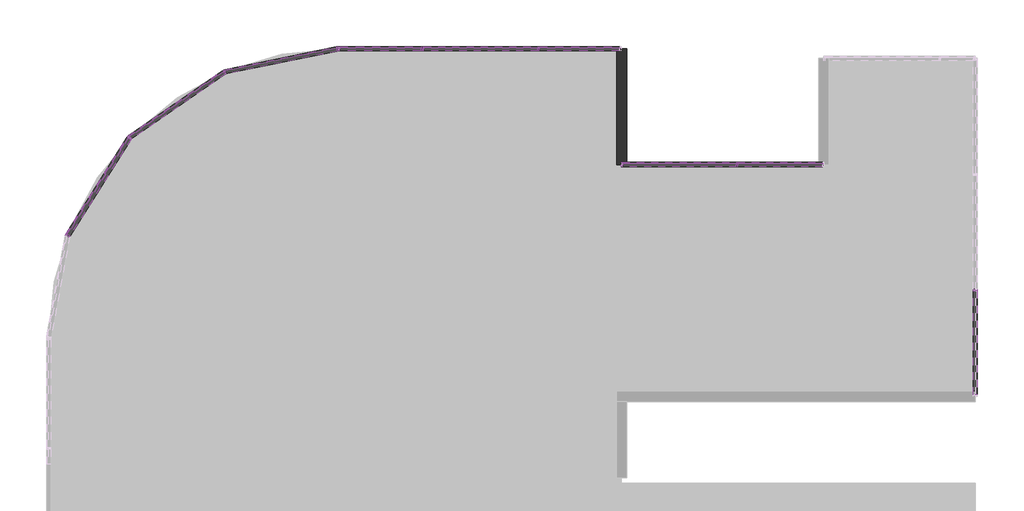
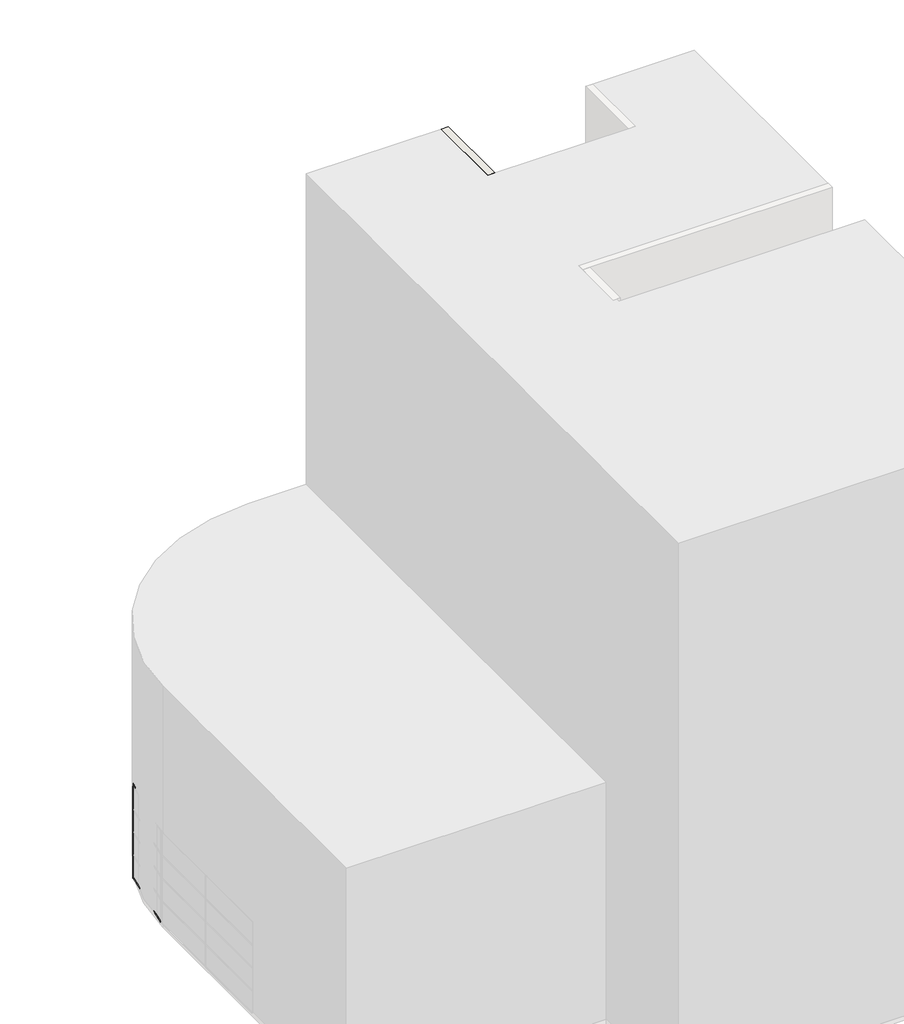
# One storey, part 3 of 5: 79 members, 32 plates, 1 wall.
"""IFC4 building model written with IfcOpenShell, lengths in millimetres."""

from ifc_helpers import new_model, si_unit, origin, origin_with_axes, place, context, project, spatial, polyline, outline, extrude, transform, mapped, element, save
from components import rectangular_mullion_50_x_150mm_d99dc9be, rectangular_mullion_50_x_150mm_182bfbd5, rectangular_mullion_50_x_150mm_402ab136, rectangular_mullion_50_x_150mm_6588f46c, rectangular_mullion_50_x_150mm_3fe1b35e, rectangular_mullion_50_x_150mm_c2546fd4, rectangular_mullion_50_x_150mm_8b4cb4b7, rectangular_mullion_50_x_150mm_185cfd49, rectangular_mullion_50_x_150mm_0b116d56, rectangular_mullion_50_x_150mm_6d604593, rectangular_mullion_50_x_150mm_99029072, rectangular_mullion_50_x_150mm_662445cf, rectangular_mullion_50_x_150mm_3491e2ff, rectangular_mullion_50_x_150mm_1010543a, rectangular_mullion_50_x_150mm_6b01f5a5, system_panel_glazed_ecbc047f, system_panel_glazed_8e9402eb, system_panel_glazed_6cd03a5f, system_panel_glazed_e890f31e, system_panel_glazed_29e23e46, system_panel_glazed_e3e91f99, system_panel_glazed_ee025bb3, system_panel_glazed_18d93cd4, system_panel_glazed_0282c8a9, system_panel_glazed_e778729e, system_panel_glazed_f47374c1, system_panel_glazed_c3dc520e

model = new_model("IFC4")

# Units and contexts
model_context = context("Model", 3, world=origin())
ifc_project = project(units=[si_unit("LENGTHUNIT", "METRE", prefix="MILLI")], contexts=[model_context])

# Site, building, storey
site = spatial("IfcSite", under=ifc_project)
building = spatial("IfcBuilding", under=site)
storey = spatial("IfcBuildingStorey", under=building, Name="Suteren", Elevation=0.0)

# Members
placement = place(None, origin())
rectangular_mullion_50_x_150mm_shape = rectangular_mullion_50_x_150mm_d99dc9be(model_context)
element("IfcMember", 1, ObjectType="Rectangular Mullion : 50 x 150mm", at=placement, inside=storey, context=model_context, shape_type="MappedRepresentation", body=[
    mapped(rectangular_mullion_50_x_150mm_shape, transform((13503.2660975, 39.3555415, 4800.0), x_axis=(0.0, -1.0, 0.0), y_axis=(1.0, 0.0, 0.0), z_axis=(0.0, 0.0, 1.0))),
])
element("IfcMember", 2, ObjectType="Rectangular Mullion : 50 x 150mm", at=placement, inside=storey, context=model_context, shape_type="MappedRepresentation", body=[
    mapped(rectangular_mullion_50_x_150mm_shape, transform((13503.2660975, 39.3555415, 3600.0), x_axis=(0.0, -1.0, 0.0), y_axis=(1.0, 0.0, 0.0), z_axis=(0.0, 0.0, 1.0))),
])
element("IfcMember", 3, ObjectType="Rectangular Mullion : 50 x 150mm", at=placement, inside=storey, context=model_context, shape_type="MappedRepresentation", body=[
    mapped(rectangular_mullion_50_x_150mm_shape, transform((13503.2660975, 39.3555415, 2400.0), x_axis=(0.0, -1.0, 0.0), y_axis=(1.0, 0.0, 0.0), z_axis=(0.0, 0.0, 1.0))),
])
element("IfcMember", 4, ObjectType="Rectangular Mullion : 50 x 150mm", at=placement, inside=storey, context=model_context, shape_type="MappedRepresentation", body=[
    mapped(rectangular_mullion_50_x_150mm_shape, transform((-1587.173406, 8375.9839566, 2400.0), x_axis=(1.0, 0.0, 0.0), y_axis=(0.0, 1.0, 0.0), z_axis=(0.0, 0.0, 1.0))),
])
element("IfcMember", 5, ObjectType="Rectangular Mullion : 50 x 150mm", at=placement, inside=storey, context=model_context, shape_type="MappedRepresentation", body=[
    mapped(rectangular_mullion_50_x_150mm_shape, transform((-1587.173406, 8375.9839566, 3600.0), x_axis=(1.0, 0.0, 0.0), y_axis=(0.0, 1.0, 0.0), z_axis=(0.0, 0.0, 1.0))),
])
element("IfcMember", 6, ObjectType="Rectangular Mullion : 50 x 150mm", at=placement, inside=storey, context=model_context, shape_type="MappedRepresentation", body=[
    mapped(rectangular_mullion_50_x_150mm_shape, transform((-1587.173406, 8375.9839566, 4800.0), x_axis=(1.0, 0.0, 0.0), y_axis=(0.0, 1.0, 0.0), z_axis=(0.0, 0.0, 1.0))),
])
element("IfcMember", 7, ObjectType="Rectangular Mullion : 50 x 150mm", at=placement, inside=storey, context=model_context, shape_type="MappedRepresentation", body=[
    mapped(rectangular_mullion_50_x_150mm_shape, transform((5278.419219, 4375.9839566, 2400.0), x_axis=(1.0, 0.0, 0.0), y_axis=(0.0, 1.0, 0.0), z_axis=(0.0, 0.0, 1.0))),
])
element("IfcMember", 8, ObjectType="Rectangular Mullion : 50 x 150mm", at=placement, inside=storey, context=model_context, shape_type="MappedRepresentation", body=[
    mapped(rectangular_mullion_50_x_150mm_shape, transform((5278.419219, 4375.9839566, 3600.0), x_axis=(1.0, 0.0, 0.0), y_axis=(0.0, 1.0, 0.0), z_axis=(0.0, 0.0, 1.0))),
])
element("IfcMember", 9, ObjectType="Rectangular Mullion : 50 x 150mm", at=placement, inside=storey, context=model_context, shape_type="MappedRepresentation", body=[
    mapped(rectangular_mullion_50_x_150mm_shape, transform((5278.419219, 4375.9839566, 4800.0), x_axis=(1.0, 0.0, 0.0), y_axis=(0.0, 1.0, 0.0), z_axis=(0.0, 0.0, 1.0))),
])
element("IfcMember", 10, ObjectType="Rectangular Mullion : 50 x 150mm", at=placement, inside=storey, context=model_context, shape_type="MappedRepresentation", body=[
    mapped(rectangular_mullion_50_x_150mm_shape, transform((13503.2660975, 39.3555415, 1200.0), x_axis=(0.0, -1.0, 0.0), y_axis=(1.0, 0.0, 0.0), z_axis=(0.0, 0.0, 1.0))),
])
element("IfcMember", 11, ObjectType="Rectangular Mullion : 50 x 150mm", at=placement, inside=storey, context=model_context, shape_type="MappedRepresentation", body=[
    mapped(rectangular_mullion_50_x_150mm_shape, transform((-1587.173406, 8375.9839566, 1200.0), x_axis=(1.0, 0.0, 0.0), y_axis=(0.0, 1.0, 0.0), z_axis=(0.0, 0.0, 1.0))),
])
element("IfcMember", 12, ObjectType="Rectangular Mullion : 50 x 150mm", at=placement, inside=storey, context=model_context, shape_type="MappedRepresentation", body=[
    mapped(rectangular_mullion_50_x_150mm_shape, transform((5278.419219, 4375.9839566, 1200.0), x_axis=(1.0, 0.0, 0.0), y_axis=(0.0, 1.0, 0.0), z_axis=(0.0, 0.0, 1.0))),
])
rectangular_mullion_50_x_150mm_2_shape = rectangular_mullion_50_x_150mm_182bfbd5(model_context)
element("IfcMember", 13, ObjectType="Rectangular Mullion : 50 x 150mm", at=placement, inside=storey, context=model_context, shape_type="MappedRepresentation", body=[
    mapped(rectangular_mullion_50_x_150mm_2_shape, transform((13503.2660975, 64.3555415, 0.0), x_axis=(0.0, 0.0, -1.0), y_axis=(1.0, 0.0, 0.0), z_axis=(0.0, -1.0, 0.0))),
])
rectangular_mullion_50_x_150mm_3_shape = rectangular_mullion_50_x_150mm_402ab136(model_context)
element("IfcMember", 14, ObjectType="Rectangular Mullion : 50 x 150mm", at=placement, inside=storey, context=model_context, shape_type="MappedRepresentation", body=[
    mapped(rectangular_mullion_50_x_150mm_3_shape, transform((-1612.173406, 8375.9839566, 0.0), x_axis=(0.0, 0.0, -1.0), y_axis=(0.0, 1.0, 0.0), z_axis=(1.0, 0.0, 0.0))),
])
element("IfcMember", 15, ObjectType="Rectangular Mullion : 50 x 150mm", at=placement, inside=storey, context=model_context, shape_type="MappedRepresentation", body=[
    mapped(rectangular_mullion_50_x_150mm_3_shape, transform((5253.419219, 4375.9839566, 0.0), x_axis=(0.0, 0.0, -1.0), y_axis=(0.0, 1.0, 0.0), z_axis=(1.0, 0.0, 0.0))),
])
rectangular_mullion_50_x_150mm_4_shape = rectangular_mullion_50_x_150mm_6588f46c(model_context)
element("IfcMember", 16, ObjectType="Rectangular Mullion : 50 x 150mm", at=placement, inside=storey, context=model_context, shape_type="MappedRepresentation", body=[
    mapped(rectangular_mullion_50_x_150mm_4_shape, transform((-5587.173406, 8375.9839566, 2400.0), x_axis=(1.0, 0.0, 0.0), y_axis=(0.0, 1.0, 0.0), z_axis=(0.0, 0.0, 1.0))),
])
element("IfcMember", 17, ObjectType="Rectangular Mullion : 50 x 150mm", at=placement, inside=storey, context=model_context, shape_type="MappedRepresentation", body=[
    mapped(rectangular_mullion_50_x_150mm_4_shape, transform((-5587.173406, 8375.9839566, 3600.0), x_axis=(1.0, 0.0, 0.0), y_axis=(0.0, 1.0, 0.0), z_axis=(0.0, 0.0, 1.0))),
])
element("IfcMember", 18, ObjectType="Rectangular Mullion : 50 x 150mm", at=placement, inside=storey, context=model_context, shape_type="MappedRepresentation", body=[
    mapped(rectangular_mullion_50_x_150mm_4_shape, transform((-5587.173406, 8375.9839566, 4800.0), x_axis=(1.0, 0.0, 0.0), y_axis=(0.0, 1.0, 0.0), z_axis=(0.0, 0.0, 1.0))),
])
element("IfcMember", 19, ObjectType="Rectangular Mullion : 50 x 150mm", at=placement, inside=storey, context=model_context, shape_type="MappedRepresentation", body=[
    mapped(rectangular_mullion_50_x_150mm_4_shape, transform((-8496.7339025, 8375.9839566, 2400.0), x_axis=(0.9797958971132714, 0.1999999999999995, 0.0), y_axis=(-0.1999999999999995, 0.9797958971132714, 0.0), z_axis=(0.0, 0.0, 1.0))),
])
element("IfcMember", 20, ObjectType="Rectangular Mullion : 50 x 150mm", at=placement, inside=storey, context=model_context, shape_type="MappedRepresentation", body=[
    mapped(rectangular_mullion_50_x_150mm_4_shape, transform((-8496.7339025, 8375.9839566, 3600.0), x_axis=(0.9797958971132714, 0.1999999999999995, 0.0), y_axis=(-0.1999999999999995, 0.9797958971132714, 0.0), z_axis=(0.0, 0.0, 1.0))),
])
element("IfcMember", 21, ObjectType="Rectangular Mullion : 50 x 150mm", at=placement, inside=storey, context=model_context, shape_type="MappedRepresentation", body=[
    mapped(rectangular_mullion_50_x_150mm_4_shape, transform((-8496.7339025, 8375.9839566, 4800.0), x_axis=(0.9797958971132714, 0.1999999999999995, 0.0), y_axis=(-0.1999999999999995, 0.9797958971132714, 0.0), z_axis=(0.0, 0.0, 1.0))),
])
element("IfcMember", 22, ObjectType="Rectangular Mullion : 50 x 150mm", at=placement, inside=storey, context=model_context, shape_type="MappedRepresentation", body=[
    mapped(rectangular_mullion_50_x_150mm_4_shape, transform((-5587.173406, 8375.9839566, 1200.0), x_axis=(1.0, 0.0, 0.0), y_axis=(0.0, 1.0, 0.0), z_axis=(0.0, 0.0, 1.0))),
])
element("IfcMember", 23, ObjectType="Rectangular Mullion : 50 x 150mm", at=placement, inside=storey, context=model_context, shape_type="MappedRepresentation", body=[
    mapped(rectangular_mullion_50_x_150mm_4_shape, transform((-8496.7339025, 8375.9839566, 1200.0), x_axis=(0.9797958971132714, 0.1999999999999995, 0.0), y_axis=(-0.1999999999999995, 0.9797958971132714, 0.0), z_axis=(0.0, 0.0, 1.0))),
])
rectangular_mullion_50_x_150mm_5_shape = rectangular_mullion_50_x_150mm_3fe1b35e(model_context)
element("IfcMember", 24, ObjectType="Rectangular Mullion : 50 x 150mm", at=placement, inside=storey, context=model_context, shape_type="MappedRepresentation", body=[
    mapped(rectangular_mullion_50_x_150mm_5_shape, transform((13503.2660975, 14.3555415, 3600.0), x_axis=(0.0, 0.0, 1.0), y_axis=(1.0, 0.0, 0.0), z_axis=(0.0, 1.0, 0.0))),
])
element("IfcMember", 25, ObjectType="Rectangular Mullion : 50 x 150mm", at=placement, inside=storey, context=model_context, shape_type="MappedRepresentation", body=[
    mapped(rectangular_mullion_50_x_150mm_5_shape, transform((13503.2660975, 14.3555415, 2400.0), x_axis=(0.0, 0.0, 1.0), y_axis=(1.0, 0.0, 0.0), z_axis=(0.0, 1.0, 0.0))),
])
element("IfcMember", 26, ObjectType="Rectangular Mullion : 50 x 150mm", at=placement, inside=storey, context=model_context, shape_type="MappedRepresentation", body=[
    mapped(rectangular_mullion_50_x_150mm_5_shape, transform((13503.2660975, 14.3555415, 1200.0), x_axis=(0.0, 0.0, 1.0), y_axis=(1.0, 0.0, 0.0), z_axis=(0.0, 1.0, 0.0))),
])
rectangular_mullion_50_x_150mm_6_shape = rectangular_mullion_50_x_150mm_c2546fd4(model_context)
element("IfcMember", 27, ObjectType="Rectangular Mullion : 50 x 150mm", at=placement, inside=storey, context=model_context, shape_type="MappedRepresentation", body=[
    mapped(rectangular_mullion_50_x_150mm_6_shape, transform((-5537.173406, 8375.9839566, 1200.0), x_axis=(0.0, 0.0, 1.0), y_axis=(0.0, 1.0, 0.0), z_axis=(-1.0, 0.0, 0.0))),
])
element("IfcMember", 28, ObjectType="Rectangular Mullion : 50 x 150mm", at=placement, inside=storey, context=model_context, shape_type="MappedRepresentation", body=[
    mapped(rectangular_mullion_50_x_150mm_6_shape, transform((-5537.173406, 8375.9839566, 2400.0), x_axis=(0.0, 0.0, 1.0), y_axis=(0.0, 1.0, 0.0), z_axis=(-1.0, 0.0, 0.0))),
])
element("IfcMember", 29, ObjectType="Rectangular Mullion : 50 x 150mm", at=placement, inside=storey, context=model_context, shape_type="MappedRepresentation", body=[
    mapped(rectangular_mullion_50_x_150mm_6_shape, transform((-5537.173406, 8375.9839566, 3600.0), x_axis=(0.0, 0.0, 1.0), y_axis=(0.0, 1.0, 0.0), z_axis=(-1.0, 0.0, 0.0))),
])
element("IfcMember", 30, ObjectType="Rectangular Mullion : 50 x 150mm", at=placement, inside=storey, context=model_context, shape_type="MappedRepresentation", body=[
    mapped(rectangular_mullion_50_x_150mm_6_shape, transform((1328.419219, 4375.9839566, 1200.0), x_axis=(0.0, 0.0, 1.0), y_axis=(0.0, 1.0, 0.0), z_axis=(-1.0, 0.0, 0.0))),
])
element("IfcMember", 31, ObjectType="Rectangular Mullion : 50 x 150mm", at=placement, inside=storey, context=model_context, shape_type="MappedRepresentation", body=[
    mapped(rectangular_mullion_50_x_150mm_6_shape, transform((1328.419219, 4375.9839566, 2400.0), x_axis=(0.0, 0.0, 1.0), y_axis=(0.0, 1.0, 0.0), z_axis=(-1.0, 0.0, 0.0))),
])
element("IfcMember", 32, ObjectType="Rectangular Mullion : 50 x 150mm", at=placement, inside=storey, context=model_context, shape_type="MappedRepresentation", body=[
    mapped(rectangular_mullion_50_x_150mm_6_shape, transform((1328.419219, 4375.9839566, 3600.0), x_axis=(0.0, 0.0, 1.0), y_axis=(0.0, 1.0, 0.0), z_axis=(-1.0, 0.0, 0.0))),
])
element("IfcMember", 33, ObjectType="Rectangular Mullion : 50 x 150mm", at=placement, inside=storey, context=model_context, shape_type="MappedRepresentation", body=[
    mapped(rectangular_mullion_50_x_150mm_4_shape, transform((-5587.173406, 8375.9839566, 1200.0), x_axis=(-1.0, 0.0, 0.0), y_axis=(0.0, 1.0, 0.0), z_axis=(0.0, 0.0, -1.0))),
])
element("IfcMember", 34, ObjectType="Rectangular Mullion : 50 x 150mm", at=placement, inside=storey, context=model_context, shape_type="MappedRepresentation", body=[
    mapped(rectangular_mullion_50_x_150mm_4_shape, transform((-5587.173406, 8375.9839566, 2400.0), x_axis=(-1.0, 0.0, 0.0), y_axis=(0.0, 1.0, 0.0), z_axis=(0.0, 0.0, -1.0))),
])
element("IfcMember", 35, ObjectType="Rectangular Mullion : 50 x 150mm", at=placement, inside=storey, context=model_context, shape_type="MappedRepresentation", body=[
    mapped(rectangular_mullion_50_x_150mm_4_shape, transform((-5587.173406, 8375.9839566, 3600.0), x_axis=(-1.0, 0.0, 0.0), y_axis=(0.0, 1.0, 0.0), z_axis=(0.0, 0.0, -1.0))),
])
element("IfcMember", 36, ObjectType="Rectangular Mullion : 50 x 150mm", at=placement, inside=storey, context=model_context, shape_type="MappedRepresentation", body=[
    mapped(rectangular_mullion_50_x_150mm_4_shape, transform((1278.419219, 4375.9839566, 1200.0), x_axis=(-1.0, 0.0, 0.0), y_axis=(0.0, 1.0, 0.0), z_axis=(0.0, 0.0, -1.0))),
])
element("IfcMember", 37, ObjectType="Rectangular Mullion : 50 x 150mm", at=placement, inside=storey, context=model_context, shape_type="MappedRepresentation", body=[
    mapped(rectangular_mullion_50_x_150mm_4_shape, transform((1278.419219, 4375.9839566, 2400.0), x_axis=(-1.0, 0.0, 0.0), y_axis=(0.0, 1.0, 0.0), z_axis=(0.0, 0.0, -1.0))),
])
element("IfcMember", 38, ObjectType="Rectangular Mullion : 50 x 150mm", at=placement, inside=storey, context=model_context, shape_type="MappedRepresentation", body=[
    mapped(rectangular_mullion_50_x_150mm_4_shape, transform((1278.419219, 4375.9839566, 3600.0), x_axis=(-1.0, 0.0, 0.0), y_axis=(0.0, 1.0, 0.0), z_axis=(0.0, 0.0, -1.0))),
])
element("IfcMember", 39, ObjectType="Rectangular Mullion : 50 x 150mm", at=placement, inside=storey, context=model_context, shape_type="MappedRepresentation", body=[
    mapped(rectangular_mullion_50_x_150mm_4_shape, transform((-8496.7339025, 8375.9839566, 1200.0), x_axis=(-1.0, 0.0, 0.0), y_axis=(0.0, 1.0, 0.0), z_axis=(0.0, 0.0, -1.0))),
])
element("IfcMember", 40, ObjectType="Rectangular Mullion : 50 x 150mm", at=placement, inside=storey, context=model_context, shape_type="MappedRepresentation", body=[
    mapped(rectangular_mullion_50_x_150mm_4_shape, transform((-8496.7339025, 8375.9839566, 2400.0), x_axis=(-1.0, 0.0, 0.0), y_axis=(0.0, 1.0, 0.0), z_axis=(0.0, 0.0, -1.0))),
])
element("IfcMember", 41, ObjectType="Rectangular Mullion : 50 x 150mm", at=placement, inside=storey, context=model_context, shape_type="MappedRepresentation", body=[
    mapped(rectangular_mullion_50_x_150mm_4_shape, transform((-8496.7339025, 8375.9839566, 3600.0), x_axis=(-1.0, 0.0, 0.0), y_axis=(0.0, 1.0, 0.0), z_axis=(0.0, 0.0, -1.0))),
])
element("IfcMember", 42, ObjectType="Rectangular Mullion : 50 x 150mm", at=placement, inside=storey, context=model_context, shape_type="MappedRepresentation", body=[
    mapped(rectangular_mullion_50_x_150mm_4_shape, transform((-5587.173406, 8375.9839566, 0.0), x_axis=(-1.0, 0.0, 0.0), y_axis=(0.0, 1.0, 0.0), z_axis=(0.0, 0.0, -1.0))),
])
element("IfcMember", 43, ObjectType="Rectangular Mullion : 50 x 150mm", at=placement, inside=storey, context=model_context, shape_type="MappedRepresentation", body=[
    mapped(rectangular_mullion_50_x_150mm_4_shape, transform((1278.419219, 4375.9839566, 0.0), x_axis=(-1.0, 0.0, 0.0), y_axis=(0.0, 1.0, 0.0), z_axis=(0.0, 0.0, -1.0))),
])
element("IfcMember", 44, ObjectType="Rectangular Mullion : 50 x 150mm", at=placement, inside=storey, context=model_context, shape_type="MappedRepresentation", body=[
    mapped(rectangular_mullion_50_x_150mm_4_shape, transform((-8496.7339025, 8375.9839566, 0.0), x_axis=(-1.0, 0.0, 0.0), y_axis=(0.0, 1.0, 0.0), z_axis=(0.0, 0.0, -1.0))),
])
rectangular_mullion_50_x_150mm_7_shape = rectangular_mullion_50_x_150mm_8b4cb4b7(model_context)
element("IfcMember", 45, ObjectType="Rectangular Mullion : 50 x 150mm", at=placement, inside=storey, context=model_context, shape_type="MappedRepresentation", body=[
    mapped(rectangular_mullion_50_x_150mm_7_shape, transform((-1562.173406, 8375.9839566, 1200.0), x_axis=(0.0, 0.0, 1.0), y_axis=(0.0, 1.0, 0.0), z_axis=(-1.0, 0.0, 0.0))),
])
element("IfcMember", 46, ObjectType="Rectangular Mullion : 50 x 150mm", at=placement, inside=storey, context=model_context, shape_type="MappedRepresentation", body=[
    mapped(rectangular_mullion_50_x_150mm_7_shape, transform((-1562.173406, 8375.9839566, 2400.0), x_axis=(0.0, 0.0, 1.0), y_axis=(0.0, 1.0, 0.0), z_axis=(-1.0, 0.0, 0.0))),
])
element("IfcMember", 47, ObjectType="Rectangular Mullion : 50 x 150mm", at=placement, inside=storey, context=model_context, shape_type="MappedRepresentation", body=[
    mapped(rectangular_mullion_50_x_150mm_7_shape, transform((-1562.173406, 8375.9839566, 3600.0), x_axis=(0.0, 0.0, 1.0), y_axis=(0.0, 1.0, 0.0), z_axis=(-1.0, 0.0, 0.0))),
])
rectangular_mullion_50_x_150mm_8_shape = rectangular_mullion_50_x_150mm_185cfd49(model_context)
element("IfcMember", 48, ObjectType="Rectangular Mullion : 50 x 150mm", at=placement, inside=storey, context=model_context, shape_type="MappedRepresentation", body=[
    mapped(rectangular_mullion_50_x_150mm_8_shape, transform((5303.419219, 4375.9839566, 1200.0), x_axis=(0.0, 0.0, 1.0), y_axis=(0.0, 1.0, 0.0), z_axis=(-1.0, 0.0, 0.0))),
])
element("IfcMember", 49, ObjectType="Rectangular Mullion : 50 x 150mm", at=placement, inside=storey, context=model_context, shape_type="MappedRepresentation", body=[
    mapped(rectangular_mullion_50_x_150mm_8_shape, transform((5303.419219, 4375.9839566, 2400.0), x_axis=(0.0, 0.0, 1.0), y_axis=(0.0, 1.0, 0.0), z_axis=(-1.0, 0.0, 0.0))),
])
element("IfcMember", 50, ObjectType="Rectangular Mullion : 50 x 150mm", at=placement, inside=storey, context=model_context, shape_type="MappedRepresentation", body=[
    mapped(rectangular_mullion_50_x_150mm_8_shape, transform((5303.419219, 4375.9839566, 3600.0), x_axis=(0.0, 0.0, 1.0), y_axis=(0.0, 1.0, 0.0), z_axis=(-1.0, 0.0, 0.0))),
])
rectangular_mullion_50_x_150mm_9_shape = rectangular_mullion_50_x_150mm_0b116d56(model_context)
element("IfcMember", 51, ObjectType="Rectangular Mullion : 50 x 150mm", at=placement, inside=storey, context=model_context, shape_type="MappedRepresentation", body=[
    mapped(rectangular_mullion_50_x_150mm_9_shape, transform((-5637.173406, 8375.9839566, 0.0), x_axis=(0.0, 0.0, -1.0), y_axis=(0.0, 1.0, 0.0), z_axis=(1.0, 0.0, 0.0))),
])
rectangular_mullion_50_x_150mm_10_shape = rectangular_mullion_50_x_150mm_6d604593(model_context)
element("IfcMember", 52, ObjectType="Rectangular Mullion : 50 x 150mm", at=placement, inside=storey, context=model_context, shape_type="MappedRepresentation", body=[
    mapped(rectangular_mullion_50_x_150mm_10_shape, transform((-8446.7339025, 8375.9839566, 1200.0), x_axis=(0.0, 0.0, 1.0), y_axis=(0.0, 1.0, 0.0), z_axis=(-1.0, 0.0, 0.0))),
])
element("IfcMember", 53, ObjectType="Rectangular Mullion : 50 x 150mm", at=placement, inside=storey, context=model_context, shape_type="MappedRepresentation", body=[
    mapped(rectangular_mullion_50_x_150mm_10_shape, transform((-8446.7339025, 8375.9839566, 2400.0), x_axis=(0.0, 0.0, 1.0), y_axis=(0.0, 1.0, 0.0), z_axis=(-1.0, 0.0, 0.0))),
])
element("IfcMember", 54, ObjectType="Rectangular Mullion : 50 x 150mm", at=placement, inside=storey, context=model_context, shape_type="MappedRepresentation", body=[
    mapped(rectangular_mullion_50_x_150mm_10_shape, transform((-8446.7339025, 8375.9839566, 3600.0), x_axis=(0.0, 0.0, 1.0), y_axis=(0.0, 1.0, 0.0), z_axis=(-1.0, 0.0, 0.0))),
])
rectangular_mullion_50_x_150mm_11_shape = rectangular_mullion_50_x_150mm_99029072(model_context)
element("IfcMember", 55, ObjectType="Rectangular Mullion : 50 x 150mm", at=placement, inside=storey, context=model_context, shape_type="MappedRepresentation", body=[
    mapped(rectangular_mullion_50_x_150mm_11_shape, transform((-15687.4559914, 5318.1839566, 1200.0), x_axis=(0.0, 0.0, 1.0), y_axis=(-0.5680000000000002, 0.8230285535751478, 0.0), z_axis=(-0.8230285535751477, -0.5680000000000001, 0.0))),
])
element("IfcMember", 56, ObjectType="Rectangular Mullion : 50 x 150mm", at=placement, inside=storey, context=model_context, shape_type="MappedRepresentation", body=[
    mapped(rectangular_mullion_50_x_150mm_11_shape, transform((-17832.9738551, 1944.6319566, 1200.0), x_axis=(0.0, 0.0, 1.0), y_axis=(-0.84512, 0.534576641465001, 0.0), z_axis=(-0.534576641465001, -0.84512, 0.0))),
])
element("IfcMember", 57, ObjectType="Rectangular Mullion : 50 x 150mm", at=placement, inside=storey, context=model_context, shape_type="MappedRepresentation", body=[
    mapped(rectangular_mullion_50_x_150mm_11_shape, transform((-15687.4559914, 5318.1839566, 2400.0), x_axis=(0.0, 0.0, 1.0), y_axis=(-0.5680000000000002, 0.8230285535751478, 0.0), z_axis=(-0.8230285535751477, -0.5680000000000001, 0.0))),
])
element("IfcMember", 58, ObjectType="Rectangular Mullion : 50 x 150mm", at=placement, inside=storey, context=model_context, shape_type="MappedRepresentation", body=[
    mapped(rectangular_mullion_50_x_150mm_11_shape, transform((-17832.9738551, 1944.6319566, 2400.0), x_axis=(0.0, 0.0, 1.0), y_axis=(-0.84512, 0.534576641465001, 0.0), z_axis=(-0.534576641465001, -0.84512, 0.0))),
])
element("IfcMember", 59, ObjectType="Rectangular Mullion : 50 x 150mm", at=placement, inside=storey, context=model_context, shape_type="MappedRepresentation", body=[
    mapped(rectangular_mullion_50_x_150mm_11_shape, transform((-15687.4559914, 5318.1839566, 3600.0), x_axis=(0.0, 0.0, 1.0), y_axis=(-0.5680000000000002, 0.8230285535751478, 0.0), z_axis=(-0.8230285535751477, -0.5680000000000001, 0.0))),
])
element("IfcMember", 60, ObjectType="Rectangular Mullion : 50 x 150mm", at=placement, inside=storey, context=model_context, shape_type="MappedRepresentation", body=[
    mapped(rectangular_mullion_50_x_150mm_11_shape, transform((-17832.9738551, 1944.6319566, 3600.0), x_axis=(0.0, 0.0, 1.0), y_axis=(-0.84512, 0.534576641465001, 0.0), z_axis=(-0.534576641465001, -0.84512, 0.0))),
])
rectangular_mullion_50_x_150mm_12_shape = rectangular_mullion_50_x_150mm_662445cf(model_context)
element("IfcMember", 61, ObjectType="Rectangular Mullion : 50 x 150mm", at=placement, inside=storey, context=model_context, shape_type="MappedRepresentation", body=[
    mapped(rectangular_mullion_50_x_150mm_12_shape, transform((-12391.4225935, 7580.9839566, 2400.0), x_axis=(0.0, 0.0, 1.0), y_axis=(-0.19999999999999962, 0.9797958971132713, 0.0), z_axis=(-0.9797958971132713, -0.19999999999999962, 0.0))),
])
element("IfcMember", 62, ObjectType="Rectangular Mullion : 50 x 150mm", at=placement, inside=storey, context=model_context, shape_type="MappedRepresentation", body=[
    mapped(rectangular_mullion_50_x_150mm_12_shape, transform((-12391.4225935, 7580.9839566, 3600.0), x_axis=(0.0, 0.0, 1.0), y_axis=(-0.19999999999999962, 0.9797958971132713, 0.0), z_axis=(-0.9797958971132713, -0.19999999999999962, 0.0))),
])
element("IfcMember", 63, ObjectType="Rectangular Mullion : 50 x 150mm", at=placement, inside=storey, context=model_context, shape_type="MappedRepresentation", body=[
    mapped(rectangular_mullion_50_x_150mm_12_shape, transform((-12391.4225935, 7580.9839566, 1200.0), x_axis=(0.0, 0.0, 1.0), y_axis=(-0.19999999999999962, 0.9797958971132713, 0.0), z_axis=(-0.9797958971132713, -0.19999999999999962, 0.0))),
])
rectangular_mullion_50_x_150mm_13_shape = rectangular_mullion_50_x_150mm_3491e2ff(model_context)
element("IfcMember", 64, ObjectType="Rectangular Mullion : 50 x 150mm", at=placement, inside=storey, context=model_context, shape_type="MappedRepresentation", body=[
    mapped(rectangular_mullion_50_x_150mm_13_shape, transform((-12436.4932048, 7561.7839566, 0.0), x_axis=(0.0, 0.0, -1.0), y_axis=(-0.5680000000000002, 0.8230285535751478, 0.0), z_axis=(0.8230285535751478, 0.5680000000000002, 0.0))),
])
element("IfcMember", 65, ObjectType="Rectangular Mullion : 50 x 150mm", at=placement, inside=storey, context=model_context, shape_type="MappedRepresentation", body=[
    mapped(rectangular_mullion_50_x_150mm_13_shape, transform((-15721.3961213, 5282.8559566, 0.0), x_axis=(0.0, 0.0, -1.0), y_axis=(-0.8451199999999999, 0.5345766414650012, 0.0), z_axis=(0.5345766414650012, 0.8451199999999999, 0.0))),
])
rectangular_mullion_50_x_150mm_14_shape = rectangular_mullion_50_x_150mm_1010543a(model_context)
element("IfcMember", 66, ObjectType="Rectangular Mullion : 50 x 150mm", at=placement, inside=storey, context=model_context, shape_type="MappedRepresentation", body=[
    mapped(rectangular_mullion_50_x_150mm_14_shape, transform((-17850.8465816, 1898.9138135, 0.0), x_axis=(0.0, 0.0, -1.0), y_axis=(-0.9836057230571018, 0.18033241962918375, 0.0), z_axis=(0.18033241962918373, 0.9836057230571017, 0.0))),
])
element("IfcMember", 67, ObjectType="Rectangular Mullion : 50 x 150mm", at=placement, inside=storey, context=model_context, shape_type="MappedRepresentation", body=[
    mapped(rectangular_mullion_50_x_150mm_shape, transform((-12415.9174909, 7575.9839566, 1200.0), x_axis=(-0.92, -0.3919183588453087, 0.0), y_axis=(-0.3919183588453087, 0.92, 0.0), z_axis=(0.0, 0.0, -1.0))),
])
element("IfcMember", 68, ObjectType="Rectangular Mullion : 50 x 150mm", at=placement, inside=storey, context=model_context, shape_type="MappedRepresentation", body=[
    mapped(rectangular_mullion_50_x_150mm_shape, transform((-12415.9174909, 7575.9839566, 2400.0), x_axis=(-0.92, -0.3919183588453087, 0.0), y_axis=(-0.3919183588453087, 0.92, 0.0), z_axis=(0.0, 0.0, -1.0))),
])
element("IfcMember", 69, ObjectType="Rectangular Mullion : 50 x 150mm", at=placement, inside=storey, context=model_context, shape_type="MappedRepresentation", body=[
    mapped(rectangular_mullion_50_x_150mm_shape, transform((-12415.9174909, 7575.9839566, 3600.0), x_axis=(-0.92, -0.3919183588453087, 0.0), y_axis=(-0.3919183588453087, 0.92, 0.0), z_axis=(0.0, 0.0, -1.0))),
])
element("IfcMember", 70, ObjectType="Rectangular Mullion : 50 x 150mm", at=placement, inside=storey, context=model_context, shape_type="MappedRepresentation", body=[
    mapped(rectangular_mullion_50_x_150mm_shape, transform((-15708.0317052, 5303.9839566, 1200.0), x_axis=(-0.6928000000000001, -0.7211297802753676, 0.0), y_axis=(-0.7211297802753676, 0.6928000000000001, 0.0), z_axis=(0.0, 0.0, -1.0))),
])
element("IfcMember", 71, ObjectType="Rectangular Mullion : 50 x 150mm", at=placement, inside=storey, context=model_context, shape_type="MappedRepresentation", body=[
    mapped(rectangular_mullion_50_x_150mm_shape, transform((-15708.0317052, 5303.9839566, 2400.0), x_axis=(-0.6928000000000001, -0.7211297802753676, 0.0), y_axis=(-0.7211297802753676, 0.6928000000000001, 0.0), z_axis=(0.0, 0.0, -1.0))),
])
element("IfcMember", 72, ObjectType="Rectangular Mullion : 50 x 150mm", at=placement, inside=storey, context=model_context, shape_type="MappedRepresentation", body=[
    mapped(rectangular_mullion_50_x_150mm_shape, transform((-15708.0317052, 5303.9839566, 3600.0), x_axis=(-0.6928000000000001, -0.7211297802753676, 0.0), y_axis=(-0.7211297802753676, 0.6928000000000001, 0.0), z_axis=(0.0, 0.0, -1.0))),
])
element("IfcMember", 73, ObjectType="Rectangular Mullion : 50 x 150mm", at=placement, inside=storey, context=model_context, shape_type="MappedRepresentation", body=[
    mapped(rectangular_mullion_50_x_150mm_shape, transform((-17846.3382711, 1923.5039566, 1200.0), x_axis=(-0.35475199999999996, -0.934960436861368, 0.0), y_axis=(-0.934960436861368, 0.35475199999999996, 0.0), z_axis=(0.0, 0.0, -1.0))),
])
element("IfcMember", 74, ObjectType="Rectangular Mullion : 50 x 150mm", at=placement, inside=storey, context=model_context, shape_type="MappedRepresentation", body=[
    mapped(rectangular_mullion_50_x_150mm_shape, transform((-17846.3382711, 1923.5039566, 2400.0), x_axis=(-0.35475199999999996, -0.934960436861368, 0.0), y_axis=(-0.934960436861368, 0.35475199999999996, 0.0), z_axis=(0.0, 0.0, -1.0))),
])
element("IfcMember", 75, ObjectType="Rectangular Mullion : 50 x 150mm", at=placement, inside=storey, context=model_context, shape_type="MappedRepresentation", body=[
    mapped(rectangular_mullion_50_x_150mm_shape, transform((-17846.3382711, 1923.5039566, 3600.0), x_axis=(-0.35475199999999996, -0.934960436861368, 0.0), y_axis=(-0.934960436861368, 0.35475199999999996, 0.0), z_axis=(0.0, 0.0, -1.0))),
])
rectangular_mullion_50_x_150mm_15_shape = rectangular_mullion_50_x_150mm_6b01f5a5(model_context)
element("IfcMember", 76, ObjectType="Rectangular Mullion : 50 x 150mm", at=placement, inside=storey, context=model_context, shape_type="MappedRepresentation", body=[
    mapped(rectangular_mullion_50_x_150mm_15_shape, transform((-8545.7236973, 8365.9839566, 0.0), x_axis=(0.0, 0.0, -1.0), y_axis=(-0.19999999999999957, 0.9797958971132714, 0.0), z_axis=(0.9797958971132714, 0.19999999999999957, 0.0))),
])
element("IfcMember", 77, ObjectType="Rectangular Mullion : 50 x 150mm", at=placement, inside=storey, context=model_context, shape_type="MappedRepresentation", body=[
    mapped(rectangular_mullion_50_x_150mm_shape, transform((-12415.9174909, 7575.9839566, 0.0), x_axis=(-0.92, -0.3919183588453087, 0.0), y_axis=(-0.3919183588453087, 0.92, 0.0), z_axis=(0.0, 0.0, -1.0))),
])
element("IfcMember", 78, ObjectType="Rectangular Mullion : 50 x 150mm", at=placement, inside=storey, context=model_context, shape_type="MappedRepresentation", body=[
    mapped(rectangular_mullion_50_x_150mm_shape, transform((-15708.0317052, 5303.9839566, 0.0), x_axis=(-0.6928000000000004, -0.7211297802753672, 0.0), y_axis=(-0.7211297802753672, 0.6928000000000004, 0.0), z_axis=(0.0, 0.0, -1.0))),
])
element("IfcMember", 79, ObjectType="Rectangular Mullion : 50 x 150mm", at=placement, inside=storey, context=model_context, shape_type="MappedRepresentation", body=[
    mapped(rectangular_mullion_50_x_150mm_shape, transform((-17846.3382711, 1923.5039566, 0.0), x_axis=(-0.35475199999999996, -0.934960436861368, 0.0), y_axis=(-0.934960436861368, 0.35475199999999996, 0.0), z_axis=(0.0, 0.0, -1.0))),
])

# Plates
system_panel_glazed_shape = system_panel_glazed_ecbc047f(model_context)
element("IfcPlate", 80, ObjectType="System Panel : Glazed", at=placement, inside=storey, context=model_context, shape_type="MappedRepresentation", body=[
    mapped(system_panel_glazed_shape, transform((3290.919219, 4375.9839566, 50.0), x_axis=(1.0, 0.0, 0.0), y_axis=(0.0, 1.0, 0.0), z_axis=(0.0, 0.0, 1.0))),
])
element("IfcPlate", 81, ObjectType="System Panel : Glazed", at=placement, inside=storey, context=model_context, shape_type="MappedRepresentation", body=[
    mapped(system_panel_glazed_shape, transform((-3574.673406, 8375.9839566, 50.0), x_axis=(1.0, 0.0, 0.0), y_axis=(0.0, 1.0, 0.0), z_axis=(0.0, 0.0, 1.0))),
])
system_panel_glazed_2_shape = system_panel_glazed_8e9402eb(model_context)
element("IfcPlate", 82, ObjectType="System Panel : Glazed", at=placement, inside=storey, context=model_context, shape_type="MappedRepresentation", body=[
    mapped(system_panel_glazed_2_shape, transform((3290.919219, 4375.9839566, 1225.0), x_axis=(1.0, 0.0, 0.0), y_axis=(0.0, 1.0, 0.0), z_axis=(0.0, 0.0, 1.0))),
])
element("IfcPlate", 83, ObjectType="System Panel : Glazed", at=placement, inside=storey, context=model_context, shape_type="MappedRepresentation", body=[
    mapped(system_panel_glazed_2_shape, transform((3290.919219, 4375.9839566, 2425.0), x_axis=(1.0, 0.0, 0.0), y_axis=(0.0, 1.0, 0.0), z_axis=(0.0, 0.0, 1.0))),
])
element("IfcPlate", 84, ObjectType="System Panel : Glazed", at=placement, inside=storey, context=model_context, shape_type="MappedRepresentation", body=[
    mapped(system_panel_glazed_2_shape, transform((3290.919219, 4375.9839566, 3625.0), x_axis=(1.0, 0.0, 0.0), y_axis=(0.0, 1.0, 0.0), z_axis=(0.0, 0.0, 1.0))),
])
element("IfcPlate", 85, ObjectType="System Panel : Glazed", at=placement, inside=storey, context=model_context, shape_type="MappedRepresentation", body=[
    mapped(system_panel_glazed_2_shape, transform((-3574.673406, 8375.9839566, 1225.0), x_axis=(1.0, 0.0, 0.0), y_axis=(0.0, 1.0, 0.0), z_axis=(0.0, 0.0, 1.0))),
])
element("IfcPlate", 86, ObjectType="System Panel : Glazed", at=placement, inside=storey, context=model_context, shape_type="MappedRepresentation", body=[
    mapped(system_panel_glazed_2_shape, transform((-3574.673406, 8375.9839566, 2425.0), x_axis=(1.0, 0.0, 0.0), y_axis=(0.0, 1.0, 0.0), z_axis=(0.0, 0.0, 1.0))),
])
element("IfcPlate", 87, ObjectType="System Panel : Glazed", at=placement, inside=storey, context=model_context, shape_type="MappedRepresentation", body=[
    mapped(system_panel_glazed_2_shape, transform((-3574.673406, 8375.9839566, 3625.0), x_axis=(1.0, 0.0, 0.0), y_axis=(0.0, 1.0, 0.0), z_axis=(0.0, 0.0, 1.0))),
])
system_panel_glazed_3_shape = system_panel_glazed_6cd03a5f(model_context)
element("IfcPlate", 88, ObjectType="System Panel : Glazed", at=placement, inside=storey, context=model_context, shape_type="MappedRepresentation", body=[
    mapped(system_panel_glazed_3_shape, transform((-166.8770935, 8375.9839566, 50.0), x_axis=(1.0, 0.0, 0.0), y_axis=(0.0, 1.0, 0.0), z_axis=(0.0, 0.0, 1.0))),
])
system_panel_glazed_4_shape = system_panel_glazed_e890f31e(model_context)
element("IfcPlate", 89, ObjectType="System Panel : Glazed", at=placement, inside=storey, context=model_context, shape_type="MappedRepresentation", body=[
    mapped(system_panel_glazed_4_shape, transform((-166.8770935, 8375.9839566, 1225.0), x_axis=(1.0, 0.0, 0.0), y_axis=(0.0, 1.0, 0.0), z_axis=(0.0, 0.0, 1.0))),
])
element("IfcPlate", 90, ObjectType="System Panel : Glazed", at=placement, inside=storey, context=model_context, shape_type="MappedRepresentation", body=[
    mapped(system_panel_glazed_4_shape, transform((-166.8770935, 8375.9839566, 2425.0), x_axis=(1.0, 0.0, 0.0), y_axis=(0.0, 1.0, 0.0), z_axis=(0.0, 0.0, 1.0))),
])
element("IfcPlate", 91, ObjectType="System Panel : Glazed", at=placement, inside=storey, context=model_context, shape_type="MappedRepresentation", body=[
    mapped(system_panel_glazed_4_shape, transform((-166.8770935, 8375.9839566, 3625.0), x_axis=(1.0, 0.0, 0.0), y_axis=(0.0, 1.0, 0.0), z_axis=(0.0, 0.0, 1.0))),
])
system_panel_glazed_5_shape = system_panel_glazed_29e23e46(model_context)
element("IfcPlate", 92, ObjectType="System Panel : Glazed", at=placement, inside=storey, context=model_context, shape_type="MappedRepresentation", body=[
    mapped(system_panel_glazed_5_shape, transform((6765.919219, 4375.9839566, 50.0), x_axis=(1.0, 0.0, 0.0), y_axis=(0.0, 1.0, 0.0), z_axis=(0.0, 0.0, 1.0))),
])
system_panel_glazed_6_shape = system_panel_glazed_e3e91f99(model_context)
element("IfcPlate", 93, ObjectType="System Panel : Glazed", at=placement, inside=storey, context=model_context, shape_type="MappedRepresentation", body=[
    mapped(system_panel_glazed_6_shape, transform((6765.919219, 4375.9839566, 1225.0), x_axis=(1.0, 0.0, 0.0), y_axis=(0.0, 1.0, 0.0), z_axis=(0.0, 0.0, 1.0))),
])
element("IfcPlate", 94, ObjectType="System Panel : Glazed", at=placement, inside=storey, context=model_context, shape_type="MappedRepresentation", body=[
    mapped(system_panel_glazed_6_shape, transform((6765.919219, 4375.9839566, 2425.0), x_axis=(1.0, 0.0, 0.0), y_axis=(0.0, 1.0, 0.0), z_axis=(0.0, 0.0, 1.0))),
])
element("IfcPlate", 95, ObjectType="System Panel : Glazed", at=placement, inside=storey, context=model_context, shape_type="MappedRepresentation", body=[
    mapped(system_panel_glazed_6_shape, transform((6765.919219, 4375.9839566, 3625.0), x_axis=(1.0, 0.0, 0.0), y_axis=(0.0, 1.0, 0.0), z_axis=(0.0, 0.0, 1.0))),
])
system_panel_glazed_7_shape = system_panel_glazed_ee025bb3(model_context)
element("IfcPlate", 96, ObjectType="System Panel : Glazed", at=placement, inside=storey, context=model_context, shape_type="MappedRepresentation", body=[
    mapped(system_panel_glazed_7_shape, transform((-7041.9536543, 8375.9839566, 50.0), x_axis=(1.0, 0.0, 0.0), y_axis=(0.0, 1.0, 0.0), z_axis=(0.0, 0.0, 1.0))),
])
system_panel_glazed_8_shape = system_panel_glazed_18d93cd4(model_context)
element("IfcPlate", 97, ObjectType="System Panel : Glazed", at=placement, inside=storey, context=model_context, shape_type="MappedRepresentation", body=[
    mapped(system_panel_glazed_8_shape, transform((-7041.9536543, 8375.9839566, 1225.0), x_axis=(1.0, 0.0, 0.0), y_axis=(0.0, 1.0, 0.0), z_axis=(0.0, 0.0, 1.0))),
])
element("IfcPlate", 98, ObjectType="System Panel : Glazed", at=placement, inside=storey, context=model_context, shape_type="MappedRepresentation", body=[
    mapped(system_panel_glazed_8_shape, transform((-7041.9536543, 8375.9839566, 2425.0), x_axis=(1.0, 0.0, 0.0), y_axis=(0.0, 1.0, 0.0), z_axis=(0.0, 0.0, 1.0))),
])
element("IfcPlate", 99, ObjectType="System Panel : Glazed", at=placement, inside=storey, context=model_context, shape_type="MappedRepresentation", body=[
    mapped(system_panel_glazed_8_shape, transform((-7041.9536543, 8375.9839566, 3625.0), x_axis=(1.0, 0.0, 0.0), y_axis=(0.0, 1.0, 0.0), z_axis=(0.0, 0.0, 1.0))),
])
system_panel_glazed_9_shape = system_panel_glazed_0282c8a9(model_context)
element("IfcPlate", 100, ObjectType="System Panel : Glazed", at=placement, inside=storey, context=model_context, shape_type="MappedRepresentation", body=[
    mapped(system_panel_glazed_9_shape, transform((-10468.5731454, 7973.4839566, 50.0), x_axis=(-0.9797958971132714, -0.1999999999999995, 0.0), y_axis=(0.1999999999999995, -0.9797958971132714, 0.0), z_axis=(0.0, 0.0, 1.0))),
])
system_panel_glazed_10_shape = system_panel_glazed_e778729e(model_context)
element("IfcPlate", 101, ObjectType="System Panel : Glazed", at=placement, inside=storey, context=model_context, shape_type="MappedRepresentation", body=[
    mapped(system_panel_glazed_10_shape, transform((-14061.9745981, 6439.9839566, 50.0), x_axis=(-0.8230285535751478, -0.5680000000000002, 0.0), y_axis=(0.5680000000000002, -0.8230285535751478, 0.0), z_axis=(0.0, 0.0, 1.0))),
])
element("IfcPlate", 102, ObjectType="System Panel : Glazed", at=placement, inside=storey, context=model_context, shape_type="MappedRepresentation", body=[
    mapped(system_panel_glazed_10_shape, transform((-16777.1849882, 3613.7439566, 50.0), x_axis=(-0.5345766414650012, -0.8451199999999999, 0.0), y_axis=(0.8451199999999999, -0.5345766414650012, 0.0), z_axis=(0.0, 0.0, 1.0))),
])
system_panel_glazed_11_shape = system_panel_glazed_f47374c1(model_context)
element("IfcPlate", 103, ObjectType="System Panel : Glazed", at=placement, inside=storey, context=model_context, shape_type="MappedRepresentation", body=[
    mapped(system_panel_glazed_11_shape, transform((-10468.5731454, 7973.4839566, 1225.0), x_axis=(-0.9797958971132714, -0.1999999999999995, 0.0), y_axis=(0.1999999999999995, -0.9797958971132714, 0.0), z_axis=(0.0, 0.0, 1.0))),
])
element("IfcPlate", 104, ObjectType="System Panel : Glazed", at=placement, inside=storey, context=model_context, shape_type="MappedRepresentation", body=[
    mapped(system_panel_glazed_11_shape, transform((-10468.5731454, 7973.4839566, 2425.0), x_axis=(-0.9797958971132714, -0.1999999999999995, 0.0), y_axis=(0.1999999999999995, -0.9797958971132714, 0.0), z_axis=(0.0, 0.0, 1.0))),
])
element("IfcPlate", 105, ObjectType="System Panel : Glazed", at=placement, inside=storey, context=model_context, shape_type="MappedRepresentation", body=[
    mapped(system_panel_glazed_11_shape, transform((-10468.5731454, 7973.4839566, 3625.0), x_axis=(-0.9797958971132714, -0.1999999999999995, 0.0), y_axis=(0.1999999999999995, -0.9797958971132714, 0.0), z_axis=(0.0, 0.0, 1.0))),
])
system_panel_glazed_12_shape = system_panel_glazed_c3dc520e(model_context)
element("IfcPlate", 106, ObjectType="System Panel : Glazed", at=placement, inside=storey, context=model_context, shape_type="MappedRepresentation", body=[
    mapped(system_panel_glazed_12_shape, transform((-14061.9745981, 6439.9839566, 1225.0), x_axis=(-0.8230285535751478, -0.5680000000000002, 0.0), y_axis=(0.5680000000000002, -0.8230285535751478, 0.0), z_axis=(0.0, 0.0, 1.0))),
])
element("IfcPlate", 107, ObjectType="System Panel : Glazed", at=placement, inside=storey, context=model_context, shape_type="MappedRepresentation", body=[
    mapped(system_panel_glazed_12_shape, transform((-16777.1849882, 3613.7439566, 1225.0), x_axis=(-0.5345766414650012, -0.8451199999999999, 0.0), y_axis=(0.8451199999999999, -0.5345766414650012, 0.0), z_axis=(0.0, 0.0, 1.0))),
])
element("IfcPlate", 108, ObjectType="System Panel : Glazed", at=placement, inside=storey, context=model_context, shape_type="MappedRepresentation", body=[
    mapped(system_panel_glazed_12_shape, transform((-14061.9745981, 6439.9839566, 2425.0), x_axis=(-0.8230285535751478, -0.5680000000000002, 0.0), y_axis=(0.5680000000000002, -0.8230285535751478, 0.0), z_axis=(0.0, 0.0, 1.0))),
])
element("IfcPlate", 109, ObjectType="System Panel : Glazed", at=placement, inside=storey, context=model_context, shape_type="MappedRepresentation", body=[
    mapped(system_panel_glazed_12_shape, transform((-16777.1849882, 3613.7439566, 2425.0), x_axis=(-0.5345766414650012, -0.8451199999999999, 0.0), y_axis=(0.8451199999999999, -0.5345766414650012, 0.0), z_axis=(0.0, 0.0, 1.0))),
])
element("IfcPlate", 110, ObjectType="System Panel : Glazed", at=placement, inside=storey, context=model_context, shape_type="MappedRepresentation", body=[
    mapped(system_panel_glazed_12_shape, transform((-14061.9745981, 6439.9839566, 3625.0), x_axis=(-0.8230285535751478, -0.5680000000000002, 0.0), y_axis=(0.5680000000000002, -0.8230285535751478, 0.0), z_axis=(0.0, 0.0, 1.0))),
])
element("IfcPlate", 111, ObjectType="System Panel : Glazed", at=placement, inside=storey, context=model_context, shape_type="MappedRepresentation", body=[
    mapped(system_panel_glazed_12_shape, transform((-16777.1849882, 3613.7439566, 3625.0), x_axis=(-0.5345766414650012, -0.8451199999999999, 0.0), y_axis=(0.8451199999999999, -0.5345766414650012, 0.0), z_axis=(0.0, 0.0, 1.0))),
])

# Wall
element("IfcWall", 112, ObjectType="Exterior - Brick on Mtl. Stud", at=placement, inside=storey, context=model_context, shape_type="SweptSolid", body=[
    extrude(outline(polyline([(1463.419219, 8375.9839566), (1463.419219, 4375.9839566), (1113.419219, 4375.9839566), (1113.419219, 8375.9839566), (1463.419219, 8375.9839566)])), origin_with_axes(), (0.0, 0.0, 1.0), 28773.2453384),
])

save(model, "model.ifc")
